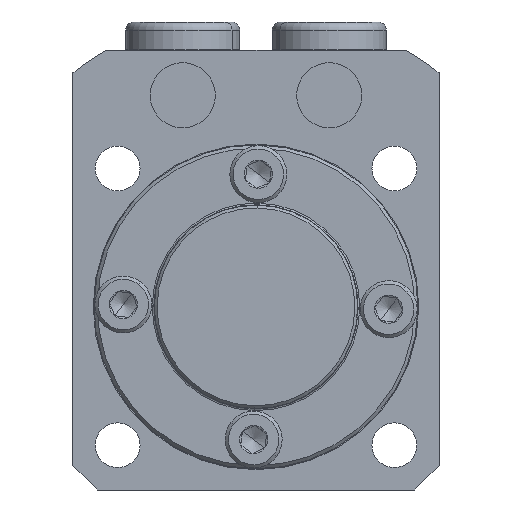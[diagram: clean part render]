
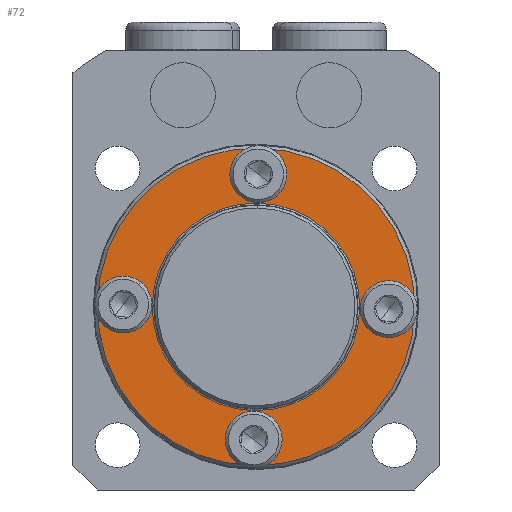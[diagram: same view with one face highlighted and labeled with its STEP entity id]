
A CAD part, front view. The second image highlights one B-rep face of the part: STEP entity #72.
In plain terms, the highlighted planar face has unit normal (0, -1, 0).
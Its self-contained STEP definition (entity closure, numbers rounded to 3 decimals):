
#72 = ADVANCED_FACE ( 'NONE', ( #543, #545, #547, #549, #542, #544 ), #551, .F. ) ;
#246 = AXIS2_PLACEMENT_3D ( 'NONE', #548, #552, #553 ) ;
#363 = AXIS2_PLACEMENT_3D ( 'NONE', #6234, #6235, #6236 ) ;
#371 = CIRCLE ( 'NONE', #363, 2.25 ) ;
#392 = CIRCLE ( 'NONE', #397, 2.25 ) ;
#397 = AXIS2_PLACEMENT_3D ( 'NONE', #6246, #6247, #6248 ) ;
#542 = FACE_BOUND ( 'NONE', #1727, .T. ) ;
#543 = FACE_BOUND ( 'NONE', #1741, .T. ) ;
#544 = FACE_BOUND ( 'NONE', #1726, .T. ) ;
#545 = FACE_OUTER_BOUND ( 'NONE', #1734, .T. ) ;
#547 = FACE_BOUND ( 'NONE', #1733, .T. ) ;
#548 = CARTESIAN_POINT ( 'NONE',  ( 0., -4., 0. ) ) ;
#549 = FACE_BOUND ( 'NONE', #1735, .T. ) ;
#551 = PLANE ( 'NONE',  #246 ) ;
#552 = DIRECTION ( 'NONE',  ( 0., 1., 0. ) ) ;
#553 = DIRECTION ( 'NONE',  ( 0., 0., 1. ) ) ;
#1271 = CIRCLE ( 'NONE', #1278, 2.25 ) ;
#1273 = CIRCLE ( 'NONE', #1276, 2.25 ) ;
#1275 = CIRCLE ( 'NONE', #1284, 19.5 ) ;
#1276 = AXIS2_PLACEMENT_3D ( 'NONE', #5625, #5626, #5627 ) ;
#1277 = CIRCLE ( 'NONE', #1280, 2.25 ) ;
#1278 = AXIS2_PLACEMENT_3D ( 'NONE', #5628, #5629, #5630 ) ;
#1279 = CIRCLE ( 'NONE', #1282, 2.25 ) ;
#1280 = AXIS2_PLACEMENT_3D ( 'NONE', #5632, #5633, #5634 ) ;
#1281 = CIRCLE ( 'NONE', #1286, 12.75 ) ;
#1282 = AXIS2_PLACEMENT_3D ( 'NONE', #5635, #5636, #5637 ) ;
#1284 = AXIS2_PLACEMENT_3D ( 'NONE', #5638, #5639, #5640 ) ;
#1286 = AXIS2_PLACEMENT_3D ( 'NONE', #5643, #5644, #5645 ) ;
#1293 = CIRCLE ( 'NONE', #1295, 2.25 ) ;
#1295 = AXIS2_PLACEMENT_3D ( 'NONE', #5665, #5666, #5667 ) ;
#1586 = VERTEX_POINT ( 'NONE', #6083 ) ;
#1600 = VERTEX_POINT ( 'NONE', #6097 ) ;
#1602 = VERTEX_POINT ( 'NONE', #6099 ) ;
#1606 = VERTEX_POINT ( 'NONE', #6103 ) ;
#1607 = VERTEX_POINT ( 'NONE', #6104 ) ;
#1611 = VERTEX_POINT ( 'NONE', #6108 ) ;
#1623 = VERTEX_POINT ( 'NONE', #6120 ) ;
#1662 = VERTEX_POINT ( 'NONE', #6159 ) ;
#1680 = VERTEX_POINT ( 'NONE', #6177 ) ;
#1688 = VERTEX_POINT ( 'NONE', #6185 ) ;
#1690 = VERTEX_POINT ( 'NONE', #6187 ) ;
#1693 = VERTEX_POINT ( 'NONE', #6190 ) ;
#1726 = EDGE_LOOP ( 'NONE', ( #1799, #1800 ) ) ;
#1727 = EDGE_LOOP ( 'NONE', ( #1797, #1798 ) ) ;
#1733 = EDGE_LOOP ( 'NONE', ( #1793, #1794 ) ) ;
#1734 = EDGE_LOOP ( 'NONE', ( #1791, #1792 ) ) ;
#1735 = EDGE_LOOP ( 'NONE', ( #1795, #1796 ) ) ;
#1741 = EDGE_LOOP ( 'NONE', ( #1789, #1790 ) ) ;
#1789 = ORIENTED_EDGE ( 'NONE', *, *, #3136, .T. ) ;
#1790 = ORIENTED_EDGE ( 'NONE', *, *, #4950, .T. ) ;
#1791 = ORIENTED_EDGE ( 'NONE', *, *, #3135, .T. ) ;
#1792 = ORIENTED_EDGE ( 'NONE', *, *, #4943, .T. ) ;
#1793 = ORIENTED_EDGE ( 'NONE', *, *, #3134, .F. ) ;
#1794 = ORIENTED_EDGE ( 'NONE', *, *, #4933, .F. ) ;
#1795 = ORIENTED_EDGE ( 'NONE', *, *, #3133, .F. ) ;
#1796 = ORIENTED_EDGE ( 'NONE', *, *, #2092, .F. ) ;
#1797 = ORIENTED_EDGE ( 'NONE', *, *, #3132, .F. ) ;
#1798 = ORIENTED_EDGE ( 'NONE', *, *, #2088, .F. ) ;
#1799 = ORIENTED_EDGE ( 'NONE', *, *, #3131, .F. ) ;
#1800 = ORIENTED_EDGE ( 'NONE', *, *, #3143, .F. ) ;
#2088 = EDGE_CURVE ( 'NONE', #1611, #1690, #371, .T. ) ;
#2092 = EDGE_CURVE ( 'NONE', #1606, #1607, #392, .T. ) ;
#3131 = EDGE_CURVE ( 'NONE', #1662, #1623, #1273, .T. ) ;
#3132 = EDGE_CURVE ( 'NONE', #1690, #1611, #1271, .T. ) ;
#3133 = EDGE_CURVE ( 'NONE', #1607, #1606, #1277, .T. ) ;
#3134 = EDGE_CURVE ( 'NONE', #1602, #1600, #1279, .T. ) ;
#3135 = EDGE_CURVE ( 'NONE', #1693, #1586, #1275, .T. ) ;
#3136 = EDGE_CURVE ( 'NONE', #1688, #1680, #1281, .T. ) ;
#3143 = EDGE_CURVE ( 'NONE', #1623, #1662, #1293, .T. ) ;
#3514 = DIRECTION ( 'NONE',  ( 0., 0., 1. ) ) ;
#4767 = CARTESIAN_POINT ( 'NONE',  ( 16.3, -4., 0. ) ) ;
#4768 = DIRECTION ( 'NONE',  ( 0., -1., 0. ) ) ;
#4769 = DIRECTION ( 'NONE',  ( -1., 0., 0. ) ) ;
#4795 = CARTESIAN_POINT ( 'NONE',  ( 0., -4., 0. ) ) ;
#4796 = DIRECTION ( 'NONE',  ( 0., -1., 0. ) ) ;
#4797 = DIRECTION ( 'NONE',  ( 0., 0., 1. ) ) ;
#4814 = CARTESIAN_POINT ( 'NONE',  ( 0., -4., 0. ) ) ;
#4933 = EDGE_CURVE ( 'NONE', #1600, #1602, #6737, .T. ) ;
#4943 = EDGE_CURVE ( 'NONE', #1586, #1693, #6749, .T. ) ;
#4950 = EDGE_CURVE ( 'NONE', #1680, #1688, #6759, .T. ) ;
#5625 = CARTESIAN_POINT ( 'NONE',  ( 0., -4., 16.3 ) ) ;
#5626 = DIRECTION ( 'NONE',  ( 0., -1., 0. ) ) ;
#5627 = DIRECTION ( 'NONE',  ( 0., 0., -1. ) ) ;
#5628 = CARTESIAN_POINT ( 'NONE',  ( -16.3, -4., 0. ) ) ;
#5629 = DIRECTION ( 'NONE',  ( 0., -1., 0. ) ) ;
#5630 = DIRECTION ( 'NONE',  ( 1., 0., 0. ) ) ;
#5632 = CARTESIAN_POINT ( 'NONE',  ( 0., -4., -16.3 ) ) ;
#5633 = DIRECTION ( 'NONE',  ( 0., -1., 0. ) ) ;
#5634 = DIRECTION ( 'NONE',  ( 0., 0., 1. ) ) ;
#5635 = CARTESIAN_POINT ( 'NONE',  ( 16.3, -4., 0. ) ) ;
#5636 = DIRECTION ( 'NONE',  ( 0., -1., 0. ) ) ;
#5637 = DIRECTION ( 'NONE',  ( -1., 0., 0. ) ) ;
#5638 = CARTESIAN_POINT ( 'NONE',  ( 0., -4., 0. ) ) ;
#5639 = DIRECTION ( 'NONE',  ( 0., -1., 0. ) ) ;
#5640 = DIRECTION ( 'NONE',  ( 0., 0., 1. ) ) ;
#5643 = CARTESIAN_POINT ( 'NONE',  ( 0., -4., 0. ) ) ;
#5644 = DIRECTION ( 'NONE',  ( 0., 1., 0. ) ) ;
#5645 = DIRECTION ( 'NONE',  ( 0., 0., 1. ) ) ;
#5665 = CARTESIAN_POINT ( 'NONE',  ( 0., -4., 16.3 ) ) ;
#5666 = DIRECTION ( 'NONE',  ( 0., -1., 0. ) ) ;
#5667 = DIRECTION ( 'NONE',  ( 0., 0., -1. ) ) ;
#6046 = DIRECTION ( 'NONE',  ( 0., 1., 0. ) ) ;
#6083 = CARTESIAN_POINT ( 'NONE',  ( 0., -4., -19.5 ) ) ;
#6097 = CARTESIAN_POINT ( 'NONE',  ( 16.3, -4., 2.25 ) ) ;
#6099 = CARTESIAN_POINT ( 'NONE',  ( 16.3, -4., -2.25 ) ) ;
#6103 = CARTESIAN_POINT ( 'NONE',  ( 0., -4., -14.05 ) ) ;
#6104 = CARTESIAN_POINT ( 'NONE',  ( 0., -4., -18.55 ) ) ;
#6108 = CARTESIAN_POINT ( 'NONE',  ( -16.3, -4., 2.25 ) ) ;
#6120 = CARTESIAN_POINT ( 'NONE',  ( 0., -4., 18.55 ) ) ;
#6159 = CARTESIAN_POINT ( 'NONE',  ( 0., -4., 14.05 ) ) ;
#6177 = CARTESIAN_POINT ( 'NONE',  ( 0., -4., -12.75 ) ) ;
#6185 = CARTESIAN_POINT ( 'NONE',  ( 0., -4., 12.75 ) ) ;
#6187 = CARTESIAN_POINT ( 'NONE',  ( -16.3, -4., -2.25 ) ) ;
#6190 = CARTESIAN_POINT ( 'NONE',  ( 0., -4., 19.5 ) ) ;
#6234 = CARTESIAN_POINT ( 'NONE',  ( -16.3, -4., 0. ) ) ;
#6235 = DIRECTION ( 'NONE',  ( 0., -1., 0. ) ) ;
#6236 = DIRECTION ( 'NONE',  ( 1., 0., 0. ) ) ;
#6246 = CARTESIAN_POINT ( 'NONE',  ( 0., -4., -16.3 ) ) ;
#6247 = DIRECTION ( 'NONE',  ( 0., -1., 0. ) ) ;
#6248 = DIRECTION ( 'NONE',  ( 0., 0., 1. ) ) ;
#6737 = CIRCLE ( 'NONE', #6739, 2.25 ) ;
#6739 = AXIS2_PLACEMENT_3D ( 'NONE', #4767, #4768, #4769 ) ;
#6749 = CIRCLE ( 'NONE', #6754, 19.5 ) ;
#6754 = AXIS2_PLACEMENT_3D ( 'NONE', #4795, #4796, #4797 ) ;
#6759 = CIRCLE ( 'NONE', #6766, 12.75 ) ;
#6766 = AXIS2_PLACEMENT_3D ( 'NONE', #4814, #6046, #3514 ) ;
